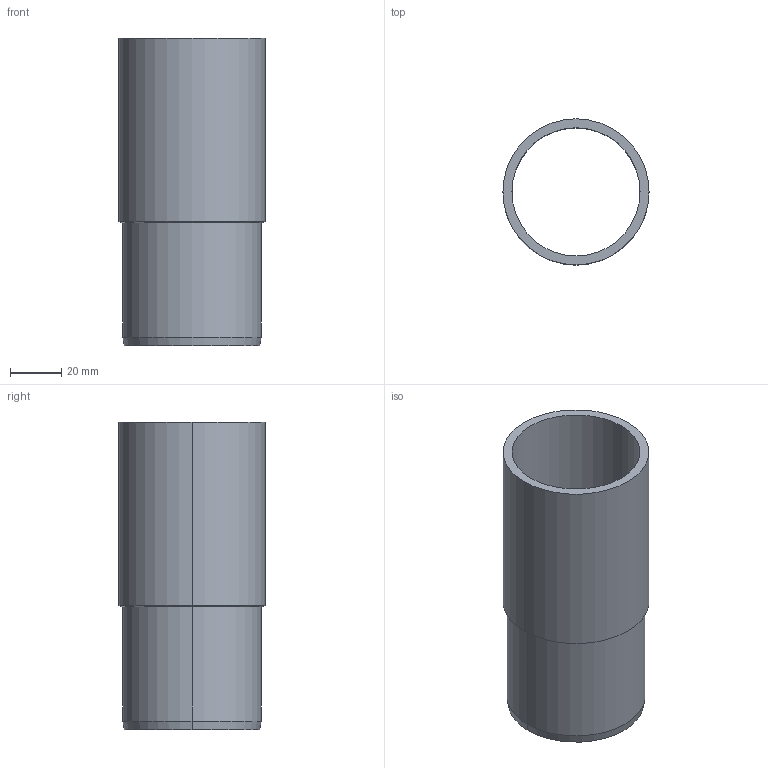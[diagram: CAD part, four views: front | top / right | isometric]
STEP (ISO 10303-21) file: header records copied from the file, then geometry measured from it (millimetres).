
FILE_DESCRIPTION(('OneSpaceDesigner STEP Export'),'2;1');
FILE_NAME('C1432 57x54.stp','2010-06-15T16:33:33',(''),(''),'OneSpace Designer STEP processor for AP214 (Solid Model)','OneSpace Modeling 15.00A 14-Mar-2007 (C) CoCreate Software GmbH','');
FILE_SCHEMA(('AUTOMOTIVE_DESIGN { 1 0 10303 214 1 1 1 1 }'));
Length unit declared in the file: millimetre
Products named in the file (2): C1432_57x54
Assembly tree (1 placements, depth 2):
  C1432_57x54
    C1432_57x54
Bounding box: 57 x 57 x 120 mm (x, y, z)
Volume: 54403.8 mm3; surface area: 41022.8 mm2
Topology: 1 solids, 1 shells, 16 faces, 32 edges, 20 vertices
Faces by surface type: cylinder 8, plane 4, cone 4
Entity records: 393 total; most frequent: ORIENTED_EDGE 64, DIRECTION 56, CARTESIAN_POINT 54, EDGE_CURVE 32, AXIS2_PLACEMENT_3D 22, VERTEX_POINT 20, EDGE_LOOP 20, FACE_OUTER_BOUND 16
